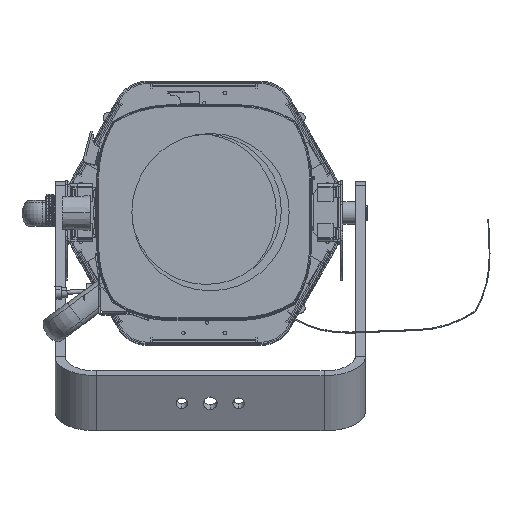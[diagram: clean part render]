
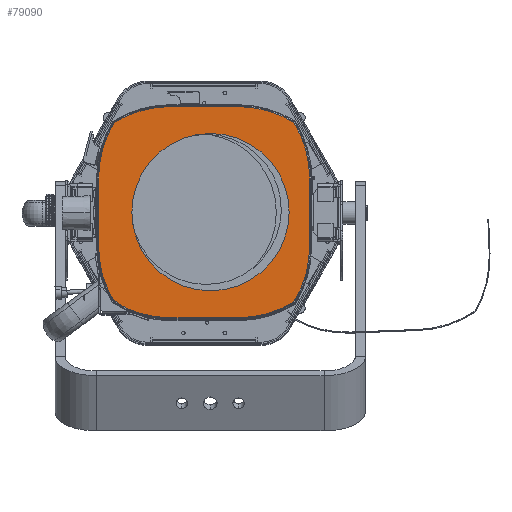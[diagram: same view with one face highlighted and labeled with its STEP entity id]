
A CAD part, top view. The second image highlights one B-rep face of the part: STEP entity #79090.
In plain terms, the highlighted planar face has unit normal (0, 0, 1) as drawn and (0, 0, -1) by its records, which use the part's own axes.
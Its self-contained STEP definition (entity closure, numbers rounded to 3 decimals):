
#1358 = VECTOR ( 'NONE', #17074, 1000. ) ;
#2335 = EDGE_CURVE ( 'NONE', #35843, #39837, #53956, .T. ) ;
#4554 = CARTESIAN_POINT ( 'NONE',  ( 86.712, -86.712, -12. ) ) ;
#5316 = LINE ( 'NONE', #47546, #1358 ) ;
#6299 = DIRECTION ( 'NONE',  ( 0., 1., 0. ) ) ;
#7431 = AXIS2_PLACEMENT_3D ( 'NONE', #82140, #8769, #82833 ) ;
#7561 = ORIENTED_EDGE ( 'NONE', *, *, #34880, .T. ) ;
#7785 = EDGE_CURVE ( 'NONE', #80622, #74080, #12342, .T. ) ;
#8362 = ORIENTED_EDGE ( 'NONE', *, *, #87516, .T. ) ;
#8563 = CARTESIAN_POINT ( 'NONE',  ( -33., 0., -12. ) ) ;
#8769 = DIRECTION ( 'NONE',  ( 0., 0., -1. ) ) ;
#9718 = ORIENTED_EDGE ( 'NONE', *, *, #123596, .T. ) ;
#10187 = EDGE_LOOP ( 'NONE', ( #26024, #9718, #8362, #90554, #80039, #103153, #133589, #54841, #94982, #68397, #7561, #101072 ) ) ;
#12342 = CIRCLE ( 'NONE', #120591, 102. ) ;
#12535 = CARTESIAN_POINT ( 'NONE',  ( -102., 33., -12. ) ) ;
#13085 = EDGE_CURVE ( 'NONE', #39837, #58329, #101162, .T. ) ;
#14071 = CARTESIAN_POINT ( 'NONE',  ( -102., -33., -12. ) ) ;
#17074 = DIRECTION ( 'NONE',  ( 0., -1., 0. ) ) ;
#17412 = VECTOR ( 'NONE', #98479, 1000. ) ;
#18122 = AXIS2_PLACEMENT_3D ( 'NONE', #103109, #29739, #135522 ) ;
#20738 = CARTESIAN_POINT ( 'NONE',  ( -6.17, 0., -12. ) ) ;
#23635 = CARTESIAN_POINT ( 'NONE',  ( 33., 0., -12. ) ) ;
#24822 = DIRECTION ( 'NONE',  ( 0., 0., -1. ) ) ;
#25779 = CARTESIAN_POINT ( 'NONE',  ( 69.83, 0., -12. ) ) ;
#26024 = ORIENTED_EDGE ( 'NONE', *, *, #61519, .T. ) ;
#27243 = DIRECTION ( 'NONE',  ( 0., 0., -1. ) ) ;
#29739 = DIRECTION ( 'NONE',  ( 0., 0., -1. ) ) ;
#29896 = VERTEX_POINT ( 'NONE', #103239 ) ;
#30058 = DIRECTION ( 'NONE',  ( 0., 0., -1. ) ) ;
#30239 = CARTESIAN_POINT ( 'NONE',  ( -6.17, 0., -12. ) ) ;
#31273 = AXIS2_PLACEMENT_3D ( 'NONE', #69570, #92402, #48811 ) ;
#34880 = EDGE_CURVE ( 'NONE', #92282, #80622, #5316, .T. ) ;
#35448 = VECTOR ( 'NONE', #6299, 1000. ) ;
#35706 = AXIS2_PLACEMENT_3D ( 'NONE', #100233, #58675, #69027 ) ;
#35843 = VERTEX_POINT ( 'NONE', #124645 ) ;
#37078 = CIRCLE ( 'NONE', #87961, 76. ) ;
#37471 = EDGE_CURVE ( 'NONE', #40603, #29896, #119216, .T. ) ;
#38788 = VECTOR ( 'NONE', #61621, 1000. ) ;
#39837 = VERTEX_POINT ( 'NONE', #14071 ) ;
#39931 = PLANE ( 'NONE',  #7431 ) ;
#40157 = LINE ( 'NONE', #124565, #38788 ) ;
#40603 = VERTEX_POINT ( 'NONE', #75904 ) ;
#40633 = AXIS2_PLACEMENT_3D ( 'NONE', #23635, #117044, #109411 ) ;
#40760 = EDGE_CURVE ( 'NONE', #58329, #91043, #97450, .T. ) ;
#41821 = ORIENTED_EDGE ( 'NONE', *, *, #79875, .T. ) ;
#46245 = CARTESIAN_POINT ( 'NONE',  ( 33., -102., -12. ) ) ;
#47546 = CARTESIAN_POINT ( 'NONE',  ( 102., 0., -12. ) ) ;
#48811 = DIRECTION ( 'NONE',  ( -1., 0., 0. ) ) ;
#48993 = CIRCLE ( 'NONE', #102081, 102. ) ;
#50116 = DIRECTION ( 'NONE',  ( -1., 0., 0. ) ) ;
#50630 = CARTESIAN_POINT ( 'NONE',  ( 102., 33., -12. ) ) ;
#53956 = CIRCLE ( 'NONE', #69427, 102. ) ;
#54841 = ORIENTED_EDGE ( 'NONE', *, *, #37471, .T. ) ;
#55250 = DIRECTION ( 'NONE',  ( 0., 0., -1. ) ) ;
#56242 = CARTESIAN_POINT ( 'NONE',  ( -33., 102., -12. ) ) ;
#56921 = VERTEX_POINT ( 'NONE', #117531 ) ;
#57297 = CARTESIAN_POINT ( 'NONE',  ( 0., -33., -12. ) ) ;
#58329 = VERTEX_POINT ( 'NONE', #12535 ) ;
#58670 = CARTESIAN_POINT ( 'NONE',  ( -33., 0., -12. ) ) ;
#58675 = DIRECTION ( 'NONE',  ( 0., 0., -1. ) ) ;
#61519 = EDGE_CURVE ( 'NONE', #74080, #77977, #79927, .T. ) ;
#61621 = DIRECTION ( 'NONE',  ( -1., 0., 0. ) ) ;
#61642 = CARTESIAN_POINT ( 'NONE',  ( -102., 0., -12. ) ) ;
#61791 = DIRECTION ( 'NONE',  ( -1., 0., 0. ) ) ;
#62394 = CIRCLE ( 'NONE', #18122, 102. ) ;
#62878 = AXIS2_PLACEMENT_3D ( 'NONE', #20738, #105180, #126578 ) ;
#64265 = EDGE_CURVE ( 'NONE', #91043, #40603, #48993, .T. ) ;
#68397 = ORIENTED_EDGE ( 'NONE', *, *, #77662, .T. ) ;
#69027 = DIRECTION ( 'NONE',  ( -1., 0., 0. ) ) ;
#69427 = AXIS2_PLACEMENT_3D ( 'NONE', #57297, #55250, #97463 ) ;
#69570 = CARTESIAN_POINT ( 'NONE',  ( 0., 33., -12. ) ) ;
#73120 = DIRECTION ( 'NONE',  ( 0., 0., 1. ) ) ;
#74080 = VERTEX_POINT ( 'NONE', #4554 ) ;
#75904 = CARTESIAN_POINT ( 'NONE',  ( -33., 102., -12. ) ) ;
#77662 = EDGE_CURVE ( 'NONE', #56921, #92282, #62394, .T. ) ;
#77977 = VERTEX_POINT ( 'NONE', #46245 ) ;
#77994 = AXIS2_PLACEMENT_3D ( 'NONE', #58670, #24822, #109246 ) ;
#79090 = ADVANCED_FACE ( 'NONE', ( #92543, #103637 ), #39931, .T. ) ;
#79875 = EDGE_CURVE ( 'NONE', #94536, #125662, #126980, .T. ) ;
#79927 = CIRCLE ( 'NONE', #35706, 102. ) ;
#80039 = ORIENTED_EDGE ( 'NONE', *, *, #13085, .T. ) ;
#80622 = VERTEX_POINT ( 'NONE', #121468 ) ;
#82140 = CARTESIAN_POINT ( 'NONE',  ( -33., 0., -12. ) ) ;
#82833 = DIRECTION ( 'NONE',  ( -1., 0., 0. ) ) ;
#86632 = ORIENTED_EDGE ( 'NONE', *, *, #92649, .T. ) ;
#87516 = EDGE_CURVE ( 'NONE', #118780, #35843, #97876, .T. ) ;
#87961 = AXIS2_PLACEMENT_3D ( 'NONE', #30239, #73120, #122937 ) ;
#90554 = ORIENTED_EDGE ( 'NONE', *, *, #2335, .T. ) ;
#91043 = VERTEX_POINT ( 'NONE', #106630 ) ;
#92282 = VERTEX_POINT ( 'NONE', #50630 ) ;
#92402 = DIRECTION ( 'NONE',  ( 0., 0., -1. ) ) ;
#92543 = FACE_BOUND ( 'NONE', #114417, .T. ) ;
#92649 = EDGE_CURVE ( 'NONE', #125662, #94536, #37078, .T. ) ;
#94536 = VERTEX_POINT ( 'NONE', #97706 ) ;
#94982 = ORIENTED_EDGE ( 'NONE', *, *, #107840, .T. ) ;
#97450 = CIRCLE ( 'NONE', #31273, 102. ) ;
#97463 = DIRECTION ( 'NONE',  ( -1., 0., 0. ) ) ;
#97706 = CARTESIAN_POINT ( 'NONE',  ( -82.17, 0., -12. ) ) ;
#97876 = CIRCLE ( 'NONE', #77994, 102. ) ;
#98479 = DIRECTION ( 'NONE',  ( 1., 0., 0. ) ) ;
#99142 = CARTESIAN_POINT ( 'NONE',  ( -33., -102., -12. ) ) ;
#100233 = CARTESIAN_POINT ( 'NONE',  ( 33., 0., -12. ) ) ;
#101072 = ORIENTED_EDGE ( 'NONE', *, *, #7785, .T. ) ;
#101162 = LINE ( 'NONE', #61642, #35448 ) ;
#102081 = AXIS2_PLACEMENT_3D ( 'NONE', #8563, #30058, #50116 ) ;
#103109 = CARTESIAN_POINT ( 'NONE',  ( 0., 33., -12. ) ) ;
#103153 = ORIENTED_EDGE ( 'NONE', *, *, #40760, .T. ) ;
#103239 = CARTESIAN_POINT ( 'NONE',  ( 33., 102., -12. ) ) ;
#103637 = FACE_OUTER_BOUND ( 'NONE', #10187, .T. ) ;
#105180 = DIRECTION ( 'NONE',  ( 0., 0., 1. ) ) ;
#106630 = CARTESIAN_POINT ( 'NONE',  ( -86.712, 86.712, -12. ) ) ;
#107840 = EDGE_CURVE ( 'NONE', #29896, #56921, #109225, .T. ) ;
#109225 = CIRCLE ( 'NONE', #40633, 102. ) ;
#109246 = DIRECTION ( 'NONE',  ( -1., 0., 0. ) ) ;
#109411 = DIRECTION ( 'NONE',  ( -1., 0., 0. ) ) ;
#114417 = EDGE_LOOP ( 'NONE', ( #86632, #41821 ) ) ;
#117044 = DIRECTION ( 'NONE',  ( 0., 0., -1. ) ) ;
#117531 = CARTESIAN_POINT ( 'NONE',  ( 86.712, 86.712, -12. ) ) ;
#118780 = VERTEX_POINT ( 'NONE', #99142 ) ;
#119216 = LINE ( 'NONE', #56242, #17412 ) ;
#120591 = AXIS2_PLACEMENT_3D ( 'NONE', #121992, #27243, #61791 ) ;
#121468 = CARTESIAN_POINT ( 'NONE',  ( 102., -33., -12. ) ) ;
#121992 = CARTESIAN_POINT ( 'NONE',  ( 0., -33., -12. ) ) ;
#122937 = DIRECTION ( 'NONE',  ( 1., 0., 0. ) ) ;
#123596 = EDGE_CURVE ( 'NONE', #77977, #118780, #40157, .T. ) ;
#124565 = CARTESIAN_POINT ( 'NONE',  ( -33., -102., -12. ) ) ;
#124645 = CARTESIAN_POINT ( 'NONE',  ( -86.712, -86.712, -12. ) ) ;
#125662 = VERTEX_POINT ( 'NONE', #25779 ) ;
#126578 = DIRECTION ( 'NONE',  ( 1., 0., 0. ) ) ;
#126980 = CIRCLE ( 'NONE', #62878, 76. ) ;
#133589 = ORIENTED_EDGE ( 'NONE', *, *, #64265, .T. ) ;
#135522 = DIRECTION ( 'NONE',  ( -1., 0., 0. ) ) ;
